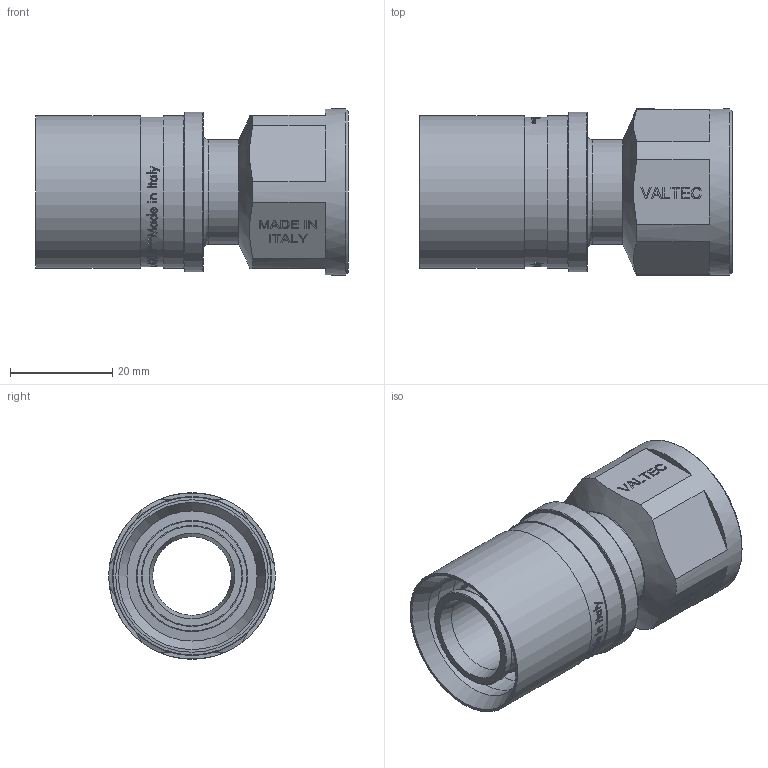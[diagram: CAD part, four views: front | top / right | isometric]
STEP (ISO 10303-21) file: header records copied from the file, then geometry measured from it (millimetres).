
FILE_DESCRIPTION(/* description */ (''),/* implementation_level */ '2;1');
FILE_NAME(/* name */ 'F:\Артём\00000\Работа удаленка\Аксеальные фитинги\VTm.402.BG.002505.stp',/* time_stamp */ '2021-01-25T14:17:10+03:00',/* author */ ('almis'),/* organization */ (''),/* preprocessor_version */ 'ST-DEVELOPER v18',/* originating_system */ 'Autodesk Inventor 2020',/* authorisation */ '');
FILE_SCHEMA (('AUTOMOTIVE_DESIGN { 1 0 10303 214 3 1 1 }'));
Length unit declared in the file: millimetre
Products named in the file (1): VTm.403.BG.001616
Bounding box: 61.26 x 32.6 x 32.6 mm (x, y, z)
Volume: 19732.6 mm3; surface area: 17641.6 mm2
Topology: 1 solids, 1 shells, 1009 faces, 2764 edges, 1857 vertices
Faces by surface type: plane 450, bspline 426, cylinder 98, torus 24, cone 11
Full cylindrical faces by diameter (mm): 15.4 x1, 18.3 x5, 19.8 x4, 20.5 x1, 21.8 x1, 24.1 x7, 25.5 x2, 27.7 x12, 29.3 x1, 29.85 x2, 31.2 x1, 32.6 x1
Entity records: 41140 total; most frequent: CARTESIAN_POINT 18057, ORIENTED_EDGE 5528, DIRECTION 3438, EDGE_CURVE 2764, VERTEX_POINT 1857, LINE 1468, VECTOR 1468, EDGE_LOOP 1111
